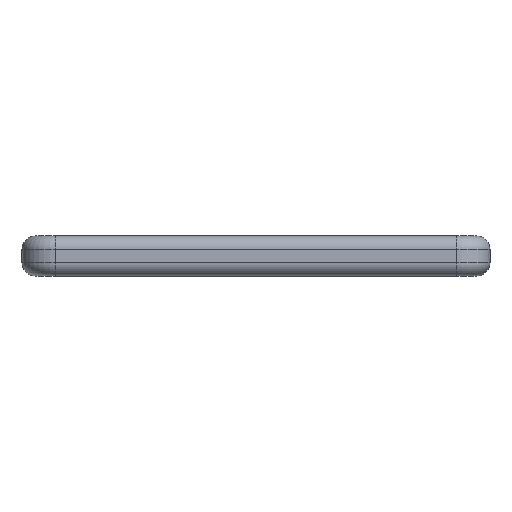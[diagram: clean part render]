
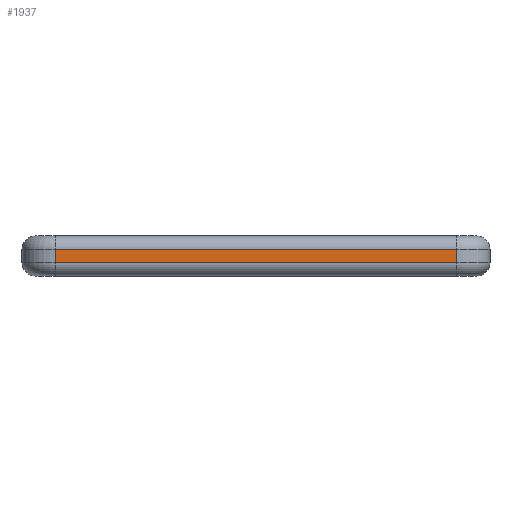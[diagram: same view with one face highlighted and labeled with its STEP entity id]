
A CAD part, front view. The second image highlights one B-rep face of the part: STEP entity #1937.
In plain terms, the highlighted planar face has unit normal (0, -1, 0).
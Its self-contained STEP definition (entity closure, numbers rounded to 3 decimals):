
#35 = CARTESIAN_POINT ( 'NONE',  ( 30., -83.19, -1. ) ) ;
#96 = VERTEX_POINT ( 'NONE', #2293 ) ;
#111 = DIRECTION ( 'NONE',  ( 0., 0., 1. ) ) ;
#360 = EDGE_LOOP ( 'NONE', ( #1180, #938, #2348, #527 ) ) ;
#476 = CARTESIAN_POINT ( 'NONE',  ( -30., -83.19, -3. ) ) ;
#527 = ORIENTED_EDGE ( 'NONE', *, *, #641, .T. ) ;
#610 = DIRECTION ( 'NONE',  ( 0., -1., 0. ) ) ;
#618 = VECTOR ( 'NONE', #1365, 1000. ) ;
#641 = EDGE_CURVE ( 'NONE', #96, #799, #1903, .T. ) ;
#672 = CARTESIAN_POINT ( 'NONE',  ( 30., -83.19, 1. ) ) ;
#773 = AXIS2_PLACEMENT_3D ( 'NONE', #2310, #610, #1380 ) ;
#791 = PLANE ( 'NONE',  #773 ) ;
#799 = VERTEX_POINT ( 'NONE', #2180 ) ;
#934 = VECTOR ( 'NONE', #1830, 1000. ) ;
#938 = ORIENTED_EDGE ( 'NONE', *, *, #1569, .T. ) ;
#1009 = CARTESIAN_POINT ( 'NONE',  ( 30., -83.19, -3. ) ) ;
#1064 = LINE ( 'NONE', #1455, #934 ) ;
#1111 = VERTEX_POINT ( 'NONE', #672 ) ;
#1180 = ORIENTED_EDGE ( 'NONE', *, *, #1924, .T. ) ;
#1220 = VECTOR ( 'NONE', #111, 1000. ) ;
#1262 = VERTEX_POINT ( 'NONE', #1316 ) ;
#1316 = CARTESIAN_POINT ( 'NONE',  ( -30., -83.19, 1. ) ) ;
#1365 = DIRECTION ( 'NONE',  ( 0., 0., 1. ) ) ;
#1380 = DIRECTION ( 'NONE',  ( 0., 0., -1. ) ) ;
#1455 = CARTESIAN_POINT ( 'NONE',  ( -30., -83.19, 1. ) ) ;
#1569 = EDGE_CURVE ( 'NONE', #1111, #1262, #1064, .T. ) ;
#1633 = EDGE_CURVE ( 'NONE', #96, #1262, #2395, .T. ) ;
#1749 = FACE_OUTER_BOUND ( 'NONE', #360, .T. ) ;
#1830 = DIRECTION ( 'NONE',  ( -1., 0., 0. ) ) ;
#1903 = LINE ( 'NONE', #35, #1910 ) ;
#1910 = VECTOR ( 'NONE', #2254, 1000. ) ;
#1924 = EDGE_CURVE ( 'NONE', #799, #1111, #2296, .T. ) ;
#1937 = ADVANCED_FACE ( 'NONE', ( #1749 ), #791, .T. ) ;
#2180 = CARTESIAN_POINT ( 'NONE',  ( 30., -83.19, -1. ) ) ;
#2254 = DIRECTION ( 'NONE',  ( 1., 0., 0. ) ) ;
#2293 = CARTESIAN_POINT ( 'NONE',  ( -30., -83.19, -1. ) ) ;
#2296 = LINE ( 'NONE', #1009, #618 ) ;
#2310 = CARTESIAN_POINT ( 'NONE',  ( -30., -83.19, -3. ) ) ;
#2348 = ORIENTED_EDGE ( 'NONE', *, *, #1633, .F. ) ;
#2395 = LINE ( 'NONE', #476, #1220 ) ;
